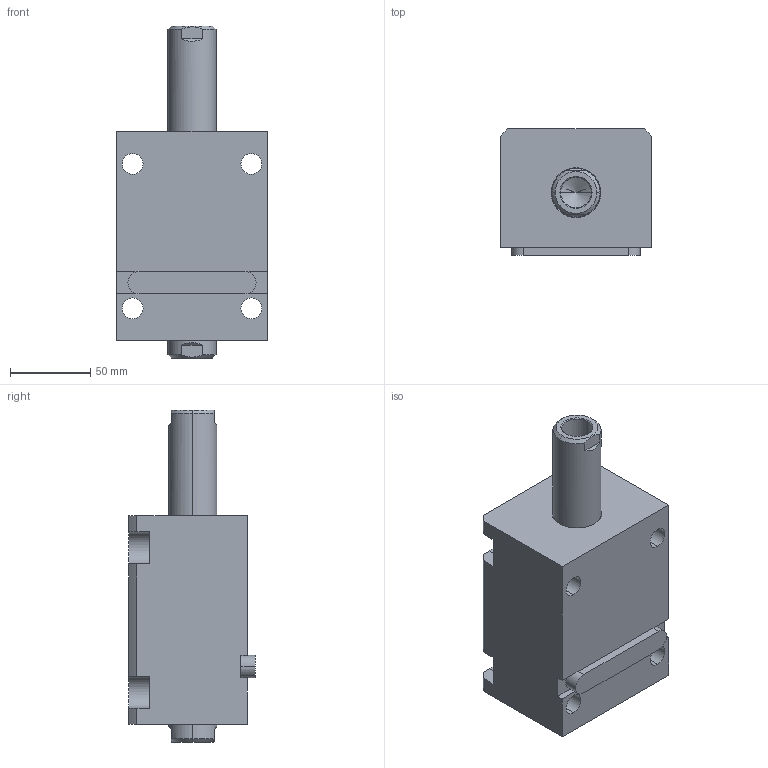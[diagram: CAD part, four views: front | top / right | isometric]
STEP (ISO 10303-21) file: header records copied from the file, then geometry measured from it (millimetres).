
FILE_DESCRIPTION (( 'STEP AP203' ), '1' );
FILE_NAME ('CHTB-LW50-55N.STEP', '2018-05-18T08:05:26', ( '' ), ( '' ), 'SwSTEP 2.0', 'SolidWorks 2015', '' );
FILE_SCHEMA (( 'CONFIG_CONTROL_DESIGN' ));
Length unit declared in the file: millimetre
Products named in the file (4): CHTM-SDMA50QG; 活塞杆LW50-55N; CHTB-LW50-55N; 掛极LW50-55N
Assembly tree (3 placements, depth 2):
  CHTB-LW50-55N
    掛极LW50-55N
    活塞杆LW50-55N
    CHTM-SDMA50QG
Bounding box: 94 x 79 x 207 mm (x, y, z)
Volume: 816250.4 mm3; surface area: 131349.7 mm2
Topology: 3 solids, 3 shells, 221 faces, 588 edges, 385 vertices
Faces by surface type: cylinder 102, plane 58, cone 31, torus 16, bspline 14
Entity records: 11831 total; most frequent: CARTESIAN_POINT 6126, ORIENTED_EDGE 1160, DIRECTION 1056, EDGE_CURVE 580, AXIS2_PLACEMENT_3D 416, VERTEX_POINT 385, EDGE_LOOP 257, LINE 224
